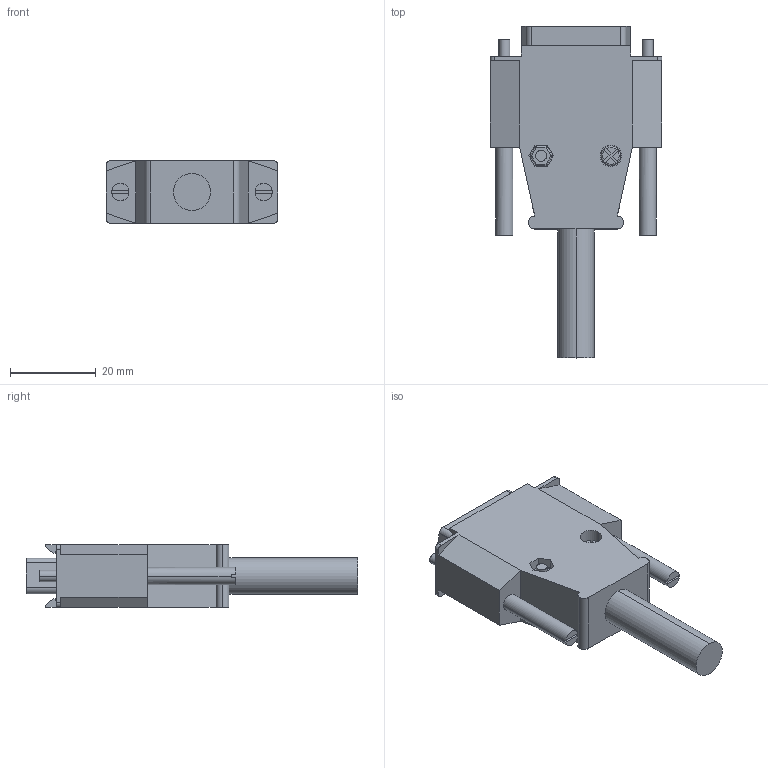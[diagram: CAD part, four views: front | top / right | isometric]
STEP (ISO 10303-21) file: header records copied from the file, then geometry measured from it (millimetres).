
FILE_DESCRIPTION (( 'STEP AP214' ), '1' );
FILE_NAME ('D-Sub15G2.STEP', '2023-02-17T00:48:01', ( 'Windows User' ), ( 'P R C' ), 'SwSTEP 2.0', 'SolidWorks 2019', '' );
FILE_SCHEMA (( 'AUTOMOTIVE_DESIGN' ));
Length unit declared in the file: millimetre
Products named in the file (5): M2.5蹟譫; M2.5-7; 蹟邡; D-Sub15G2; D-Sub15G2-1000
Assembly tree (7 placements, depth 2):
  D-Sub15G2
    D-Sub15G2-1000
    M2.5-7  x2
    M2.5蹟譫  x2
    蹟邡  x2
Bounding box: 40 x 77.2 x 14.5 mm (x, y, z)
Volume: 20371.3 mm3; surface area: 9348.7 mm2
Topology: 7 solids, 22 shells, 367 faces, 868 edges, 525 vertices
Faces by surface type: plane 149, cylinder 148, sphere 58, torus 12
Entity records: 8101 total; most frequent: DIRECTION 1499, CARTESIAN_POINT 1350, ORIENTED_EDGE 1238, EDGE_CURVE 619, AXIS2_PLACEMENT_3D 590, VERTEX_POINT 393, EDGE_LOOP 322, VECTOR 319
